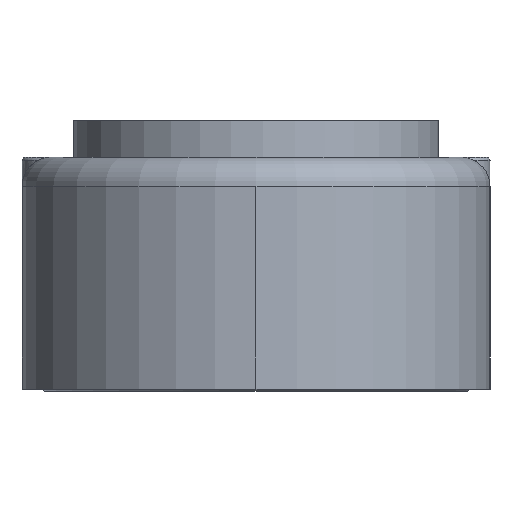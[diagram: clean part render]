
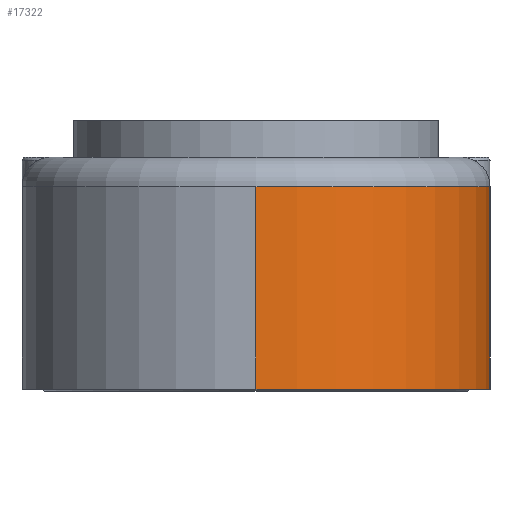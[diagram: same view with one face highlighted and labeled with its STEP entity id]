
A CAD part, left-side view. The second image highlights one B-rep face of the part: STEP entity #17322.
In plain terms, the highlighted cylindrical face has radius 32 mm (diameter 64 mm), a partial arc.
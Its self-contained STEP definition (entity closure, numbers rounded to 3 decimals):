
#919 = EDGE_CURVE ( 'NONE', #15212, #4007, #16630, .T. ) ;
#2352 = DIRECTION ( 'NONE',  ( 0., 0., -1. ) ) ;
#2550 = CARTESIAN_POINT ( 'NONE',  ( -32., 0., 27.7 ) ) ;
#2602 = AXIS2_PLACEMENT_3D ( 'NONE', #18570, #18476, #18285 ) ;
#4007 = VERTEX_POINT ( 'NONE', #2550 ) ;
#4402 = VERTEX_POINT ( 'NONE', #25846 ) ;
#4592 = DIRECTION ( 'NONE',  ( -1., 0., 0. ) ) ;
#5072 = LINE ( 'NONE', #28654, #27952 ) ;
#5485 = CARTESIAN_POINT ( 'NONE',  ( 0., 0., 0. ) ) ;
#6807 = CARTESIAN_POINT ( 'NONE',  ( 0., 0., 31.7 ) ) ;
#7087 = FACE_OUTER_BOUND ( 'NONE', #22228, .T. ) ;
#7705 = DIRECTION ( 'NONE',  ( 1., 0., 0. ) ) ;
#9427 = VECTOR ( 'NONE', #15057, 1000. ) ;
#9873 = CIRCLE ( 'NONE', #27610, 32. ) ;
#10411 = CARTESIAN_POINT ( 'NONE',  ( 0., -32., 27.7 ) ) ;
#11286 = AXIS2_PLACEMENT_3D ( 'NONE', #6807, #2352, #4592 ) ;
#12804 = CARTESIAN_POINT ( 'NONE',  ( 0., -32., 31.7 ) ) ;
#15057 = DIRECTION ( 'NONE',  ( 0., 0., -1. ) ) ;
#15212 = VERTEX_POINT ( 'NONE', #10411 ) ;
#15408 = DIRECTION ( 'NONE',  ( 0., 0., -1. ) ) ;
#16630 = CIRCLE ( 'NONE', #2602, 32. ) ;
#17016 = ORIENTED_EDGE ( 'NONE', *, *, #23459, .T. ) ;
#17149 = CARTESIAN_POINT ( 'NONE',  ( 0., -32., 0. ) ) ;
#17322 = ADVANCED_FACE ( 'NONE', ( #7087 ), #18191, .T. ) ;
#18191 = CYLINDRICAL_SURFACE ( 'NONE', #11286, 32. ) ;
#18285 = DIRECTION ( 'NONE',  ( 1., 0., 0. ) ) ;
#18476 = DIRECTION ( 'NONE',  ( 0., 0., -1. ) ) ;
#18570 = CARTESIAN_POINT ( 'NONE',  ( 0., 0., 27.7 ) ) ;
#20532 = ORIENTED_EDGE ( 'NONE', *, *, #919, .T. ) ;
#20997 = DIRECTION ( 'NONE',  ( 0., 0., 1. ) ) ;
#21689 = ORIENTED_EDGE ( 'NONE', *, *, #23179, .T. ) ;
#22228 = EDGE_LOOP ( 'NONE', ( #20532, #21689, #17016, #23783 ) ) ;
#23179 = EDGE_CURVE ( 'NONE', #4007, #4402, #5072, .T. ) ;
#23459 = EDGE_CURVE ( 'NONE', #4402, #25833, #9873, .T. ) ;
#23783 = ORIENTED_EDGE ( 'NONE', *, *, #24170, .F. ) ;
#24170 = EDGE_CURVE ( 'NONE', #15212, #25833, #27140, .T. ) ;
#25833 = VERTEX_POINT ( 'NONE', #17149 ) ;
#25846 = CARTESIAN_POINT ( 'NONE',  ( -32., 0., 0. ) ) ;
#27140 = LINE ( 'NONE', #12804, #9427 ) ;
#27610 = AXIS2_PLACEMENT_3D ( 'NONE', #5485, #20997, #7705 ) ;
#27952 = VECTOR ( 'NONE', #15408, 1000. ) ;
#28654 = CARTESIAN_POINT ( 'NONE',  ( -32., 0., 31.7 ) ) ;
